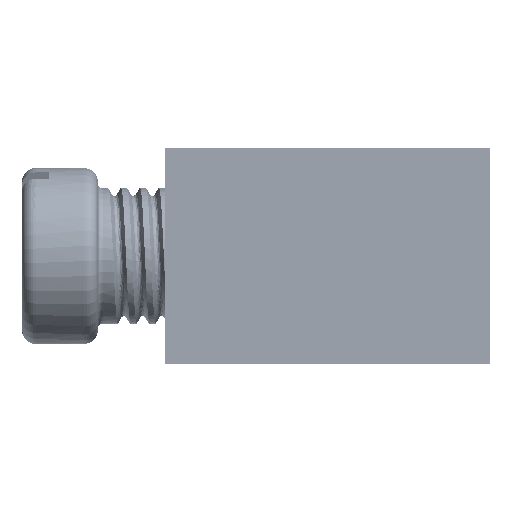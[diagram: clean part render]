
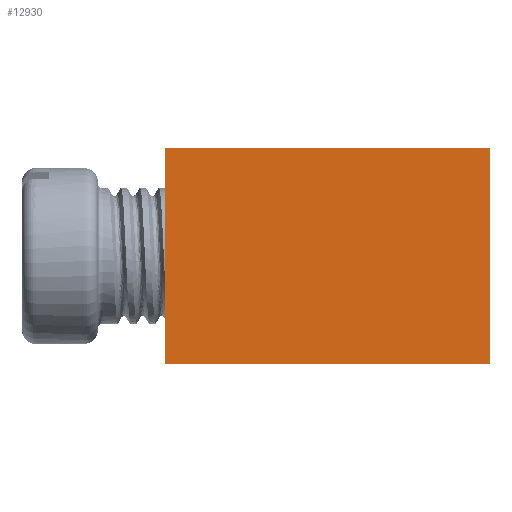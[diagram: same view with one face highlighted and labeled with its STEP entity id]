
A CAD part, left-side view. The second image highlights one B-rep face of the part: STEP entity #12930.
In plain terms, the highlighted planar face has unit normal (-1, 0, 0).
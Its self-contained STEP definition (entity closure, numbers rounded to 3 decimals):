
#761 = CARTESIAN_POINT ( 'NONE',  ( 0., 0., -8. ) ) ;
#892 = DIRECTION ( 'NONE',  ( 0., 0., 1. ) ) ;
#1929 = CARTESIAN_POINT ( 'NONE',  ( 0., 12., -8. ) ) ;
#2543 = CARTESIAN_POINT ( 'NONE',  ( 0., 0., -8. ) ) ;
#3121 = VECTOR ( 'NONE', #4163, 1000. ) ;
#3183 = ORIENTED_EDGE ( 'NONE', *, *, #6954, .T. ) ;
#3443 = VECTOR ( 'NONE', #12854, 1000. ) ;
#3731 = VERTEX_POINT ( 'NONE', #5454 ) ;
#3744 = VECTOR ( 'NONE', #7740, 1000. ) ;
#4163 = DIRECTION ( 'NONE',  ( 0., 0., 1. ) ) ;
#5038 = FACE_OUTER_BOUND ( 'NONE', #8255, .T. ) ;
#5232 = CARTESIAN_POINT ( 'NONE',  ( 0., 0., -8. ) ) ;
#5452 = VERTEX_POINT ( 'NONE', #1929 ) ;
#5454 = CARTESIAN_POINT ( 'NONE',  ( 0., 0., 0. ) ) ;
#5478 = CARTESIAN_POINT ( 'NONE',  ( 0., 12., 0. ) ) ;
#5757 = VERTEX_POINT ( 'NONE', #2543 ) ;
#5839 = CARTESIAN_POINT ( 'NONE',  ( 0., 12., -8. ) ) ;
#6724 = CARTESIAN_POINT ( 'NONE',  ( 0., 0., 0. ) ) ;
#6954 = EDGE_CURVE ( 'NONE', #5757, #3731, #8424, .T. ) ;
#7093 = ORIENTED_EDGE ( 'NONE', *, *, #7958, .T. ) ;
#7740 = DIRECTION ( 'NONE',  ( 0., -1., 0. ) ) ;
#7797 = VERTEX_POINT ( 'NONE', #5478 ) ;
#7815 = LINE ( 'NONE', #5839, #12811 ) ;
#7958 = EDGE_CURVE ( 'NONE', #5452, #5757, #8759, .T. ) ;
#8255 = EDGE_LOOP ( 'NONE', ( #12751, #9456, #7093, #3183 ) ) ;
#8259 = EDGE_CURVE ( 'NONE', #7797, #3731, #10343, .T. ) ;
#8424 = LINE ( 'NONE', #5232, #3121 ) ;
#8436 = EDGE_CURVE ( 'NONE', #5452, #7797, #7815, .T. ) ;
#8759 = LINE ( 'NONE', #10838, #3443 ) ;
#8779 = PLANE ( 'NONE',  #11910 ) ;
#9456 = ORIENTED_EDGE ( 'NONE', *, *, #8436, .F. ) ;
#9782 = DIRECTION ( 'NONE',  ( 0., 0., 1. ) ) ;
#10343 = LINE ( 'NONE', #6724, #3744 ) ;
#10693 = DIRECTION ( 'NONE',  ( -1., 0., 0. ) ) ;
#10838 = CARTESIAN_POINT ( 'NONE',  ( 0., 0., -8. ) ) ;
#11910 = AXIS2_PLACEMENT_3D ( 'NONE', #761, #10693, #9782 ) ;
#12751 = ORIENTED_EDGE ( 'NONE', *, *, #8259, .F. ) ;
#12811 = VECTOR ( 'NONE', #892, 1000. ) ;
#12854 = DIRECTION ( 'NONE',  ( 0., -1., 0. ) ) ;
#12930 = ADVANCED_FACE ( 'NONE', ( #5038 ), #8779, .T. ) ;
